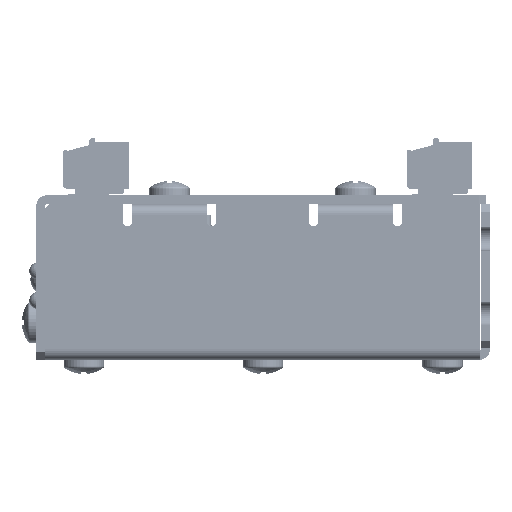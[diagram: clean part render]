
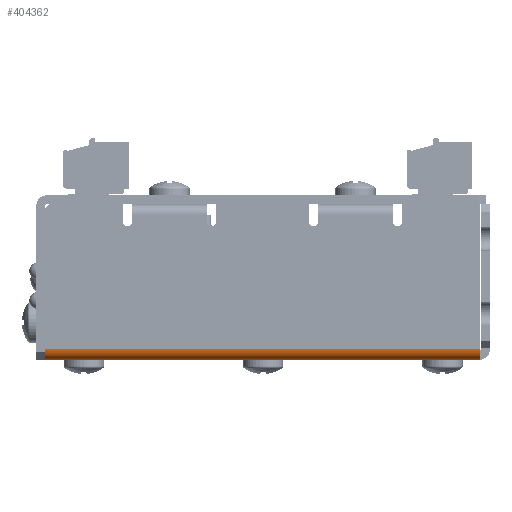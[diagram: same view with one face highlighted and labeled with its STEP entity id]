
A CAD part, left-side view. The second image highlights one B-rep face of the part: STEP entity #404362.
In plain terms, the highlighted cylindrical face has radius 1.778 mm (diameter 3.556 mm), a partial arc.
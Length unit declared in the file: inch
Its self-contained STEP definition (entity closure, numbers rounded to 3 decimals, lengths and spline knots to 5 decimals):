
#170133 = VERTEX_POINT ( 'NONE', #281265 ) ;
#170224 = VERTEX_POINT ( 'NONE', #281373 ) ;
#170662 = VERTEX_POINT ( 'NONE', #281898 ) ;
#170820 = VERTEX_POINT ( 'NONE', #282069 ) ;
#281265 = CARTESIAN_POINT ( 'NONE',  ( -8.2, 2.975, 0. ) ) ;
#281373 = CARTESIAN_POINT ( 'NONE',  ( -8.2, 0.07, 0. ) ) ;
#281898 = CARTESIAN_POINT ( 'NONE',  ( -8.27, 2.975, 0.07 ) ) ;
#282069 = CARTESIAN_POINT ( 'NONE',  ( -8.27, 0.07, 0.07 ) ) ;
#403330 = EDGE_LOOP ( 'NONE', ( #550217, #550227, #550237, #550248 ) ) ;
#404362 = ADVANCED_FACE ( 'NONE', ( #489456 ), #489488, .T. ) ;
#467267 = LINE ( 'NONE', #499652, #467286 ) ;
#467286 = VECTOR ( 'NONE', #499685, 39.37008 ) ;
#467866 = LINE ( 'NONE', #500761, #467903 ) ;
#467903 = VECTOR ( 'NONE', #500826, 39.37008 ) ;
#468677 = CIRCLE ( 'NONE', #502707, 0.07 ) ;
#468723 = CIRCLE ( 'NONE', #502699, 0.07 ) ;
#483334 = EDGE_CURVE ( 'NONE', #170820, #170662, #467267, .T. ) ;
#483696 = EDGE_CURVE ( 'NONE', #170224, #170133, #467866, .T. ) ;
#484175 = EDGE_CURVE ( 'NONE', #170133, #170662, #468723, .T. ) ;
#484193 = EDGE_CURVE ( 'NONE', #170820, #170224, #468677, .T. ) ;
#489456 = FACE_OUTER_BOUND ( 'NONE', #403330, .T. ) ;
#489488 = CYLINDRICAL_SURFACE ( 'NONE', #494981, 0.07 ) ;
#489816 = CARTESIAN_POINT ( 'NONE',  ( -8.2, 0.07, 0.07 ) ) ;
#489818 = DIRECTION ( 'NONE',  ( 0., -1., 0. ) ) ;
#489835 = DIRECTION ( 'NONE',  ( -1., 0., 0. ) ) ;
#494981 = AXIS2_PLACEMENT_3D ( 'NONE', #489816, #489818, #489835 ) ;
#499652 = CARTESIAN_POINT ( 'NONE',  ( -8.27, 2.975, 0.07 ) ) ;
#499685 = DIRECTION ( 'NONE',  ( 0., 1., 0. ) ) ;
#500761 = CARTESIAN_POINT ( 'NONE',  ( -8.2, 0.07, 0. ) ) ;
#500826 = DIRECTION ( 'NONE',  ( 0., 1., 0. ) ) ;
#501810 = CARTESIAN_POINT ( 'NONE',  ( -8.2, 2.975, 0.07 ) ) ;
#501813 = DIRECTION ( 'NONE',  ( 0., 1., 0. ) ) ;
#501818 = DIRECTION ( 'NONE',  ( 0., 0., -1. ) ) ;
#501857 = CARTESIAN_POINT ( 'NONE',  ( -8.2, 0.07, 0.07 ) ) ;
#501862 = DIRECTION ( 'NONE',  ( 0., -1., 0. ) ) ;
#501865 = DIRECTION ( 'NONE',  ( 0., 0., -1. ) ) ;
#502699 = AXIS2_PLACEMENT_3D ( 'NONE', #501810, #501813, #501818 ) ;
#502707 = AXIS2_PLACEMENT_3D ( 'NONE', #501857, #501862, #501865 ) ;
#550217 = ORIENTED_EDGE ( 'NONE', *, *, #483696, .F. ) ;
#550227 = ORIENTED_EDGE ( 'NONE', *, *, #484193, .F. ) ;
#550237 = ORIENTED_EDGE ( 'NONE', *, *, #483334, .T. ) ;
#550248 = ORIENTED_EDGE ( 'NONE', *, *, #484175, .F. ) ;
